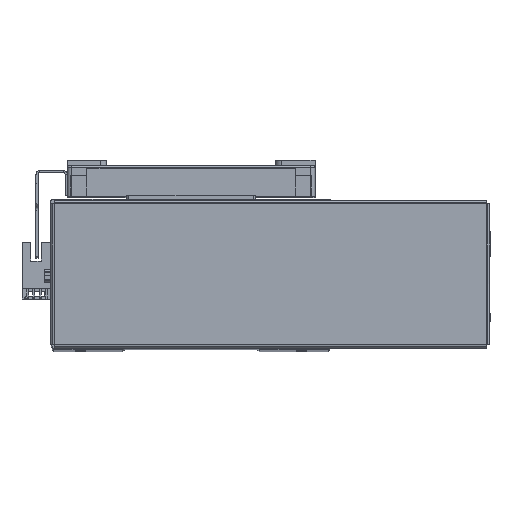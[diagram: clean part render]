
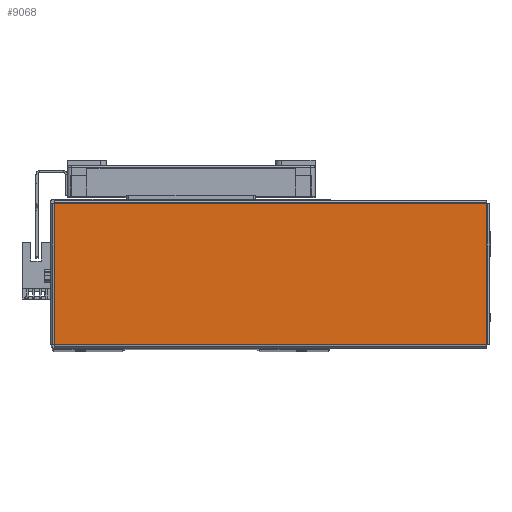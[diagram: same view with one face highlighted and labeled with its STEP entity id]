
A CAD part, top view. The second image highlights one B-rep face of the part: STEP entity #9068.
In plain terms, the highlighted planar face has unit normal (0, 0, 1) as drawn and (0, -1, 0) by its records, which use the part's own axes.
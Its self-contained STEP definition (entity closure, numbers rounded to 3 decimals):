
#5146 = VERTEX_POINT ( 'NONE', #56996 ) ;
#5197 = VERTEX_POINT ( 'NONE', #56999 ) ;
#5201 = VERTEX_POINT ( 'NONE', #57056 ) ;
#5203 = VERTEX_POINT ( 'NONE', #57060 ) ;
#9068 = ADVANCED_FACE ( 'NONE', ( #48705 ), #54146, .F. ) ;
#11682 = EDGE_CURVE ( 'NONE', #5197, #5203, #27954, .T. ) ;
#11690 = EDGE_CURVE ( 'NONE', #5203, #5146, #27858, .T. ) ;
#11858 = EDGE_CURVE ( 'NONE', #5201, #5197, #30467, .T. ) ;
#11872 = EDGE_CURVE ( 'NONE', #5146, #5201, #30506, .T. ) ;
#12588 = AXIS2_PLACEMENT_3D ( 'NONE', #54136, #54137, #54138 ) ;
#17691 = ORIENTED_EDGE ( 'NONE', *, *, #11872, .T. ) ;
#18841 = ORIENTED_EDGE ( 'NONE', *, *, #11690, .T. ) ;
#18846 = ORIENTED_EDGE ( 'NONE', *, *, #11858, .T. ) ;
#18878 = ORIENTED_EDGE ( 'NONE', *, *, #11682, .T. ) ;
#27849 = VECTOR ( 'NONE', #38191, 1000. ) ;
#27858 = LINE ( 'NONE', #38189, #27849 ) ;
#27873 = VECTOR ( 'NONE', #38159, 1000. ) ;
#27954 = LINE ( 'NONE', #38187, #27873 ) ;
#30467 = LINE ( 'NONE', #33443, #30482 ) ;
#30482 = VECTOR ( 'NONE', #33460, 1000. ) ;
#30506 = LINE ( 'NONE', #33450, #30511 ) ;
#30511 = VECTOR ( 'NONE', #33463, 1000. ) ;
#33443 = CARTESIAN_POINT ( 'NONE',  ( 103.763, -1., -33.793 ) ) ;
#33450 = CARTESIAN_POINT ( 'NONE',  ( -103.793, -1., -33.763 ) ) ;
#33460 = DIRECTION ( 'NONE',  ( 0., 0., 1. ) ) ;
#33463 = DIRECTION ( 'NONE',  ( 1., 0., 0. ) ) ;
#36179 = EDGE_LOOP ( 'NONE', ( #18878, #18841, #17691, #18846 ) ) ;
#38159 = DIRECTION ( 'NONE',  ( -1., 0., 0. ) ) ;
#38187 = CARTESIAN_POINT ( 'NONE',  ( 103.793, -1., 33.763 ) ) ;
#38189 = CARTESIAN_POINT ( 'NONE',  ( -103.763, -1., 33.793 ) ) ;
#38191 = DIRECTION ( 'NONE',  ( 0., 0., -1. ) ) ;
#48705 = FACE_OUTER_BOUND ( 'NONE', #36179, .T. ) ;
#54136 = CARTESIAN_POINT ( 'NONE',  ( 0., -1., 0. ) ) ;
#54137 = DIRECTION ( 'NONE',  ( 0., 1., 0. ) ) ;
#54138 = DIRECTION ( 'NONE',  ( 0., 0., 1. ) ) ;
#54146 = PLANE ( 'NONE',  #12588 ) ;
#56996 = CARTESIAN_POINT ( 'NONE',  ( -103.763, -1., -33.763 ) ) ;
#56999 = CARTESIAN_POINT ( 'NONE',  ( 103.763, -1., 33.763 ) ) ;
#57056 = CARTESIAN_POINT ( 'NONE',  ( 103.763, -1., -33.763 ) ) ;
#57060 = CARTESIAN_POINT ( 'NONE',  ( -103.763, -1., 33.763 ) ) ;
